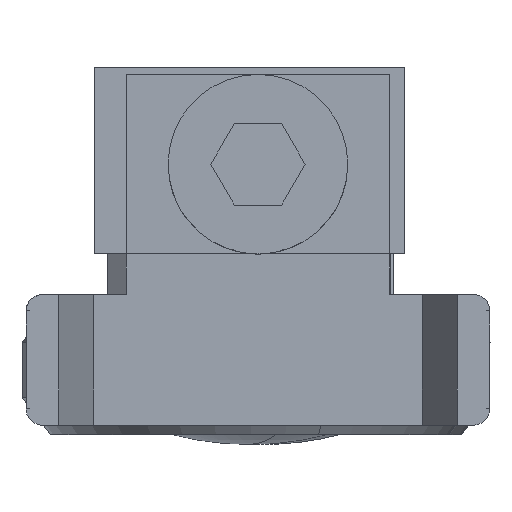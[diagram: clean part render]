
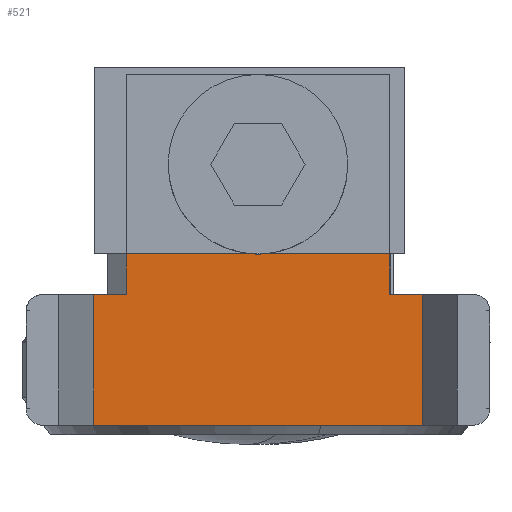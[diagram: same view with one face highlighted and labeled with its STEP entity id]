
A CAD part, left-side view. The second image highlights one B-rep face of the part: STEP entity #521.
In plain terms, the highlighted planar face has unit normal (-1, 0, 0).
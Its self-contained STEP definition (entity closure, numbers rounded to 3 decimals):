
#123 = CARTESIAN_POINT ( 'NONE',  ( 4., 1.25, -5.028 ) ) ;
#153 = VECTOR ( 'NONE', #1627, 1000. ) ;
#186 = VECTOR ( 'NONE', #376, 1000. ) ;
#329 = ORIENTED_EDGE ( 'NONE', *, *, #4282, .F. ) ;
#376 = DIRECTION ( 'NONE',  ( 0., 0., -1. ) ) ;
#381 = CARTESIAN_POINT ( 'NONE',  ( 4., 3.99, 0. ) ) ;
#467 = LINE ( 'NONE', #2708, #2060 ) ;
#521 = ADVANCED_FACE ( 'NONE', ( #4653 ), #1272, .T. ) ;
#586 = VECTOR ( 'NONE', #1010, 1000. ) ;
#611 = CARTESIAN_POINT ( 'NONE',  ( 4., -4., -5.028 ) ) ;
#749 = ORIENTED_EDGE ( 'NONE', *, *, #6485, .T. ) ;
#839 = ORIENTED_EDGE ( 'NONE', *, *, #2679, .T. ) ;
#919 = LINE ( 'NONE', #5534, #1471 ) ;
#926 = EDGE_CURVE ( 'NONE', #6046, #3860, #5119, .T. ) ;
#941 = VERTEX_POINT ( 'NONE', #2683 ) ;
#1010 = DIRECTION ( 'NONE',  ( 0., 0., 1. ) ) ;
#1184 = AXIS2_PLACEMENT_3D ( 'NONE', #381, #2808, #5362 ) ;
#1252 = LINE ( 'NONE', #1688, #2133 ) ;
#1272 = PLANE ( 'NONE',  #5574 ) ;
#1426 = VECTOR ( 'NONE', #6264, 1000. ) ;
#1471 = VECTOR ( 'NONE', #3092, 1000. ) ;
#1627 = DIRECTION ( 'NONE',  ( 0., 0., -1. ) ) ;
#1637 = LINE ( 'NONE', #6433, #2656 ) ;
#1647 = DIRECTION ( 'NONE',  ( 0., -1., 0. ) ) ;
#1688 = CARTESIAN_POINT ( 'NONE',  ( 4., -4., 5.028 ) ) ;
#1765 = LINE ( 'NONE', #3863, #186 ) ;
#1802 = DIRECTION ( 'NONE',  ( -1., 0., 0. ) ) ;
#1809 = EDGE_CURVE ( 'NONE', #4017, #4426, #3079, .T. ) ;
#1817 = EDGE_CURVE ( 'NONE', #3880, #3365, #6209, .T. ) ;
#1893 = CARTESIAN_POINT ( 'NONE',  ( 4., 0., -4.04 ) ) ;
#2039 = EDGE_CURVE ( 'NONE', #941, #3860, #467, .T. ) ;
#2054 = ORIENTED_EDGE ( 'NONE', *, *, #6051, .T. ) ;
#2060 = VECTOR ( 'NONE', #3057, 1000. ) ;
#2063 = CARTESIAN_POINT ( 'NONE',  ( 4., 1.25, 0.234 ) ) ;
#2133 = VECTOR ( 'NONE', #1647, 1000. ) ;
#2136 = LINE ( 'NONE', #123, #153 ) ;
#2138 = VERTEX_POINT ( 'NONE', #4054 ) ;
#2194 = CARTESIAN_POINT ( 'NONE',  ( 4., 0., -4.04 ) ) ;
#2217 = CARTESIAN_POINT ( 'NONE',  ( 4., 0., 4.04 ) ) ;
#2418 = ORIENTED_EDGE ( 'NONE', *, *, #2039, .F. ) ;
#2656 = VECTOR ( 'NONE', #4462, 1000. ) ;
#2679 = EDGE_CURVE ( 'NONE', #4137, #3365, #2136, .T. ) ;
#2683 = CARTESIAN_POINT ( 'NONE',  ( 4., 0., -5.028 ) ) ;
#2708 = CARTESIAN_POINT ( 'NONE',  ( 4., 0., 0. ) ) ;
#2787 = LINE ( 'NONE', #5501, #586 ) ;
#2808 = DIRECTION ( 'NONE',  ( -1., 0., 0. ) ) ;
#2832 = DIRECTION ( 'NONE',  ( 0., 0., -1. ) ) ;
#2906 = EDGE_CURVE ( 'NONE', #4017, #2138, #1252, .T. ) ;
#3030 = ORIENTED_EDGE ( 'NONE', *, *, #1809, .T. ) ;
#3057 = DIRECTION ( 'NONE',  ( 0., 0., 1. ) ) ;
#3079 = LINE ( 'NONE', #4825, #5190 ) ;
#3092 = DIRECTION ( 'NONE',  ( 0., -1., 0. ) ) ;
#3235 = CARTESIAN_POINT ( 'NONE',  ( 4., -4., -5.028 ) ) ;
#3365 = VERTEX_POINT ( 'NONE', #2063 ) ;
#3779 = DIRECTION ( 'NONE',  ( 0., 0., 1. ) ) ;
#3860 = VERTEX_POINT ( 'NONE', #1893 ) ;
#3863 = CARTESIAN_POINT ( 'NONE',  ( 4., 1.25, -5.028 ) ) ;
#3880 = VERTEX_POINT ( 'NONE', #3939 ) ;
#3939 = CARTESIAN_POINT ( 'NONE',  ( 4., 1.25, -0.234 ) ) ;
#4017 = VERTEX_POINT ( 'NONE', #6053 ) ;
#4054 = CARTESIAN_POINT ( 'NONE',  ( 4., -4., 5.028 ) ) ;
#4056 = ORIENTED_EDGE ( 'NONE', *, *, #4079, .T. ) ;
#4079 = EDGE_CURVE ( 'NONE', #941, #5736, #1637, .T. ) ;
#4137 = VERTEX_POINT ( 'NONE', #5323 ) ;
#4282 = EDGE_CURVE ( 'NONE', #4137, #4426, #919, .T. ) ;
#4330 = ORIENTED_EDGE ( 'NONE', *, *, #2906, .F. ) ;
#4426 = VERTEX_POINT ( 'NONE', #2217 ) ;
#4462 = DIRECTION ( 'NONE',  ( 0., -1., 0. ) ) ;
#4513 = ORIENTED_EDGE ( 'NONE', *, *, #1817, .F. ) ;
#4653 = FACE_OUTER_BOUND ( 'NONE', #5564, .T. ) ;
#4825 = CARTESIAN_POINT ( 'NONE',  ( 4., 0., -5.028 ) ) ;
#5119 = LINE ( 'NONE', #2194, #1426 ) ;
#5190 = VECTOR ( 'NONE', #2832, 1000. ) ;
#5323 = CARTESIAN_POINT ( 'NONE',  ( 4., 1.25, 4.04 ) ) ;
#5362 = DIRECTION ( 'NONE',  ( 0., 0., 1. ) ) ;
#5501 = CARTESIAN_POINT ( 'NONE',  ( 4., -4., 0. ) ) ;
#5534 = CARTESIAN_POINT ( 'NONE',  ( 4., 0., 4.04 ) ) ;
#5564 = EDGE_LOOP ( 'NONE', ( #3030, #329, #839, #4513, #749, #5823, #2418, #4056, #2054, #4330 ) ) ;
#5574 = AXIS2_PLACEMENT_3D ( 'NONE', #611, #1802, #3779 ) ;
#5736 = VERTEX_POINT ( 'NONE', #3235 ) ;
#5823 = ORIENTED_EDGE ( 'NONE', *, *, #926, .T. ) ;
#6046 = VERTEX_POINT ( 'NONE', #6383 ) ;
#6051 = EDGE_CURVE ( 'NONE', #5736, #2138, #2787, .T. ) ;
#6053 = CARTESIAN_POINT ( 'NONE',  ( 4., 0., 5.028 ) ) ;
#6209 = CIRCLE ( 'NONE', #1184, 2.75 ) ;
#6264 = DIRECTION ( 'NONE',  ( 0., -1., 0. ) ) ;
#6383 = CARTESIAN_POINT ( 'NONE',  ( 4., 1.25, -4.04 ) ) ;
#6433 = CARTESIAN_POINT ( 'NONE',  ( 4., -4., -5.028 ) ) ;
#6485 = EDGE_CURVE ( 'NONE', #3880, #6046, #1765, .T. ) ;
